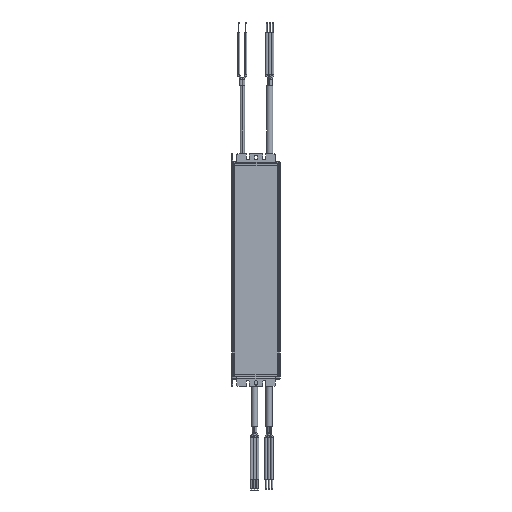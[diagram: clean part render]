
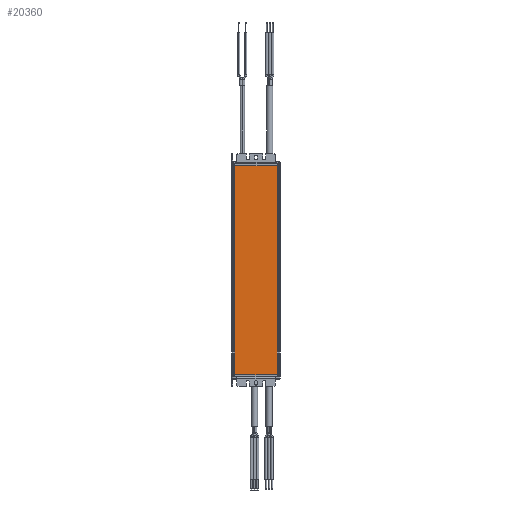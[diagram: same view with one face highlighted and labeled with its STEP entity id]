
A CAD part, front view. The second image highlights one B-rep face of the part: STEP entity #20360.
In plain terms, the highlighted planar face has unit normal (0, -1, 0).
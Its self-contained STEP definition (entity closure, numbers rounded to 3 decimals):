
#1030 = VERTEX_POINT ( 'NONE', #2268 ) ;
#1889 = VERTEX_POINT ( 'NONE', #6971 ) ;
#1960 = EDGE_CURVE ( 'NONE', #1030, #15841, #2628, .T. ) ;
#2268 = CARTESIAN_POINT ( 'NONE',  ( 30.2, -17.7, 150. ) ) ;
#2628 = LINE ( 'NONE', #5248, #22065 ) ;
#3189 = DIRECTION ( 'NONE',  ( 0., 0., 1. ) ) ;
#4160 = ORIENTED_EDGE ( 'NONE', *, *, #15148, .T. ) ;
#5248 = CARTESIAN_POINT ( 'NONE',  ( 30.2, -17.7, 150. ) ) ;
#6161 = VERTEX_POINT ( 'NONE', #14479 ) ;
#6971 = CARTESIAN_POINT ( 'NONE',  ( -30.2, -17.7, -150. ) ) ;
#7394 = DIRECTION ( 'NONE',  ( 1., 0., 0. ) ) ;
#7706 = VECTOR ( 'NONE', #8025, 1000. ) ;
#8025 = DIRECTION ( 'NONE',  ( 0., 0., -1. ) ) ;
#8555 = EDGE_CURVE ( 'NONE', #6161, #1030, #12055, .T. ) ;
#8846 = ORIENTED_EDGE ( 'NONE', *, *, #12637, .T. ) ;
#9927 = VECTOR ( 'NONE', #7394, 1000. ) ;
#10888 = ORIENTED_EDGE ( 'NONE', *, *, #8555, .F. ) ;
#11928 = DIRECTION ( 'NONE',  ( 1., 0., 0. ) ) ;
#12055 = LINE ( 'NONE', #15795, #22075 ) ;
#12637 = EDGE_CURVE ( 'NONE', #1889, #15841, #22297, .T. ) ;
#14479 = CARTESIAN_POINT ( 'NONE',  ( -30.2, -17.7, 150. ) ) ;
#14920 = DIRECTION ( 'NONE',  ( 0., 0., -1. ) ) ;
#15148 = EDGE_CURVE ( 'NONE', #6161, #1889, #21273, .T. ) ;
#15219 = AXIS2_PLACEMENT_3D ( 'NONE', #22039, #21713, #3189 ) ;
#15338 = CARTESIAN_POINT ( 'NONE',  ( 30.2, -17.7, -150. ) ) ;
#15795 = CARTESIAN_POINT ( 'NONE',  ( -30.2, -17.7, 150. ) ) ;
#15841 = VERTEX_POINT ( 'NONE', #15338 ) ;
#16751 = CARTESIAN_POINT ( 'NONE',  ( -30.2, -17.7, -150. ) ) ;
#17699 = FACE_OUTER_BOUND ( 'NONE', #24454, .T. ) ;
#17974 = ORIENTED_EDGE ( 'NONE', *, *, #1960, .F. ) ;
#18091 = PLANE ( 'NONE',  #15219 ) ;
#20360 = ADVANCED_FACE ( 'NONE', ( #17699 ), #18091, .F. ) ;
#21095 = CARTESIAN_POINT ( 'NONE',  ( -30.2, -17.7, 150. ) ) ;
#21273 = LINE ( 'NONE', #21095, #7706 ) ;
#21713 = DIRECTION ( 'NONE',  ( 0., 1., 0. ) ) ;
#22039 = CARTESIAN_POINT ( 'NONE',  ( -30.2, -17.7, 150. ) ) ;
#22065 = VECTOR ( 'NONE', #14920, 1000. ) ;
#22075 = VECTOR ( 'NONE', #11928, 1000. ) ;
#22297 = LINE ( 'NONE', #16751, #9927 ) ;
#24454 = EDGE_LOOP ( 'NONE', ( #8846, #17974, #10888, #4160 ) ) ;
